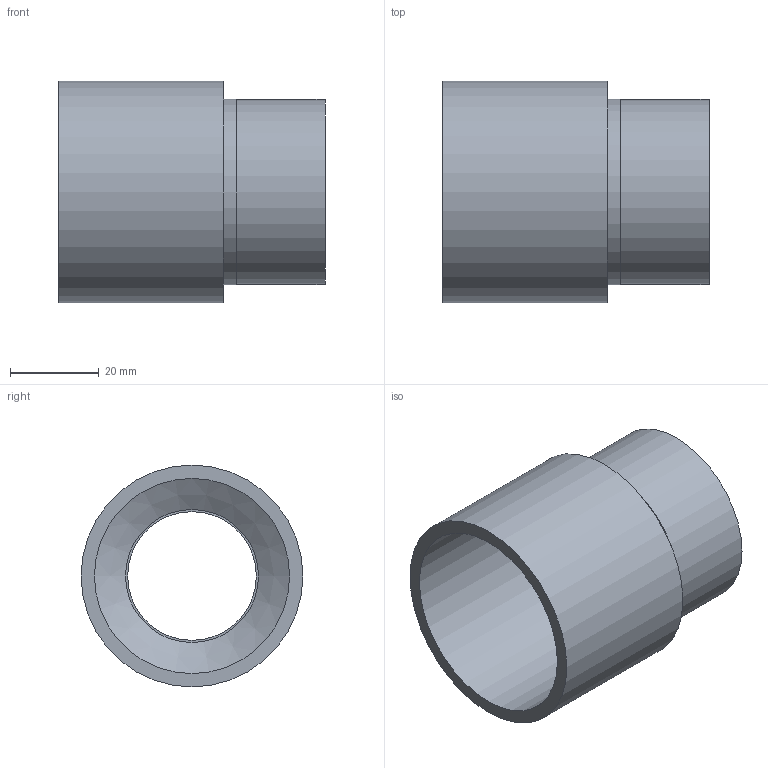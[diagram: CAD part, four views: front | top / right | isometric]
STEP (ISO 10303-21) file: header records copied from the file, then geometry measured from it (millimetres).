
FILE_DESCRIPTION(/* description */ (''),/* implementation_level */ '2;1');
FILE_NAME(/* name */ 'Z:\Geberit\Export\NewStep\Gewindest.m.AG1_Ipart\stp\361726.stp',/* time_stamp */ '2014-04-03T18:40:11+02:00',/* author */ ('nelson'),/* organization */ (''),/* preprocessor_version */ 'ST-DEVELOPER v15.2',/* originating_system */ 'Autodesk Inventor 2014',/* authorisation */ '');
FILE_SCHEMA (('AUTOMOTIVE_DESIGN { 1 0 10303 214 3 1 1 }'));
Length unit declared in the file: millimetre
Products named in the file (1): 361726
Bounding box: 60 x 50 x 50 mm (x, y, z)
Volume: 35718.5 mm3; surface area: 22504.8 mm2
Topology: 1 solids, 1 shells, 17 faces, 27 edges, 17 vertices
Faces by surface type: cylinder 8, plane 7, cone 2
Full cylindrical faces by diameter (mm): 29 x1, 30 x1, 31.8 x1, 32 x1, 41.71 x1, 41.91 x1, 44 x1, 50 x1
Entity records: 393 total; most frequent: DIRECTION 70, CARTESIAN_POINT 52, AXIS2_PLACEMENT_3D 35, EDGE_LOOP 34, ORIENTED_EDGE 34, FACE_BOUND 21, STYLED_ITEM 18, CIRCLE 17
